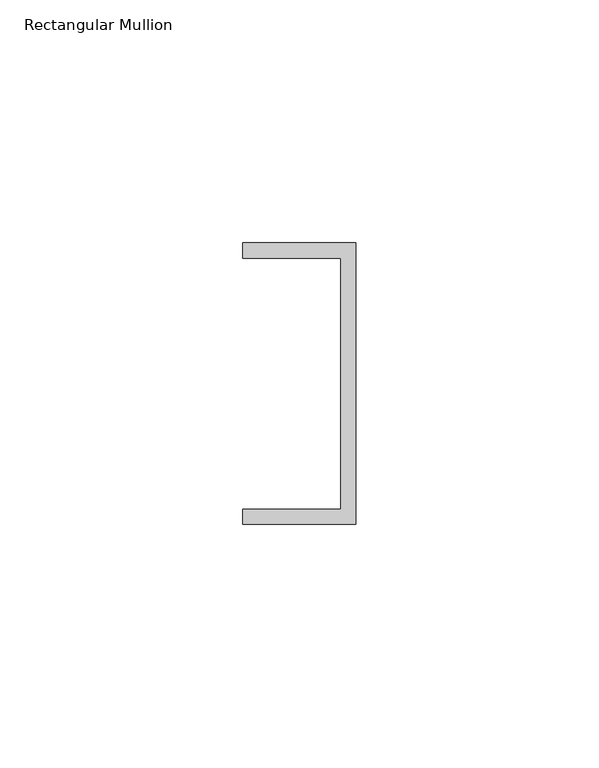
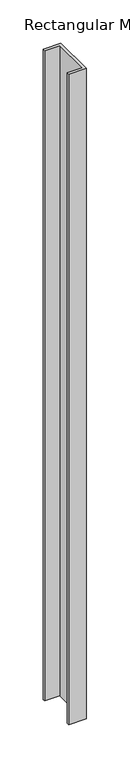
"""IFC4 building model written with IfcOpenShell, lengths in millimetres: member geometry, Rectangular Mullion : Frame-Teknion-Altos-Base_Channel."""

from ifc_helpers import new_model, si_unit, frame, origin, place, context, project, spatial, polyline, outline, extrude, source, transform, mapped, element, save


def rectangular_mullion_a1951c69(model_context):
    return source(origin(), model_context, "Body", "SweptSolid", [
        extrude(outline(polyline([(0.0, 29.0214844), (0.0, -29.0214844), (-23.3164063, -29.0214844), (-23.3164063, -25.8464844), (-3.175, -25.8464844), (-3.175, 25.8464844), (-23.3164063, 25.8464844), (-23.3164063, 29.0214844), (0.0, 29.0214844)])), frame((0.0, 0.0, -914.4), z_axis=(0.0, 0.0, 1.0), x_axis=(1.0, 0.0, 0.0)), (0.0, 0.0, 1.0), 914.4),
    ])


if __name__ == "__main__":
    model = new_model("IFC4")
    model_context = context("Model", 3, world=origin())
    ifc_project = project(units=[si_unit("LENGTHUNIT", "METRE", prefix="MILLI")], contexts=[model_context])
    site = spatial("IfcSite", under=ifc_project)
    building = spatial("IfcBuilding", under=site)
    placement = place(None, origin())
    rectangular_mullion_shape = rectangular_mullion_a1951c69(model_context)
    element("IfcMember", 1, ObjectType="Rectangular Mullion : Frame-Teknion-Altos-Base_Channel", at=placement, inside=building, context=model_context, shape_type="MappedRepresentation", body=[
        mapped(rectangular_mullion_shape, transform((0.0, 0.0, 0.0), x_axis=(1.0, 0.0, 0.0), y_axis=(0.0, 1.0, 0.0), z_axis=(0.0, 0.0, 1.0))),
    ])
    save(model, "model.ifc")
